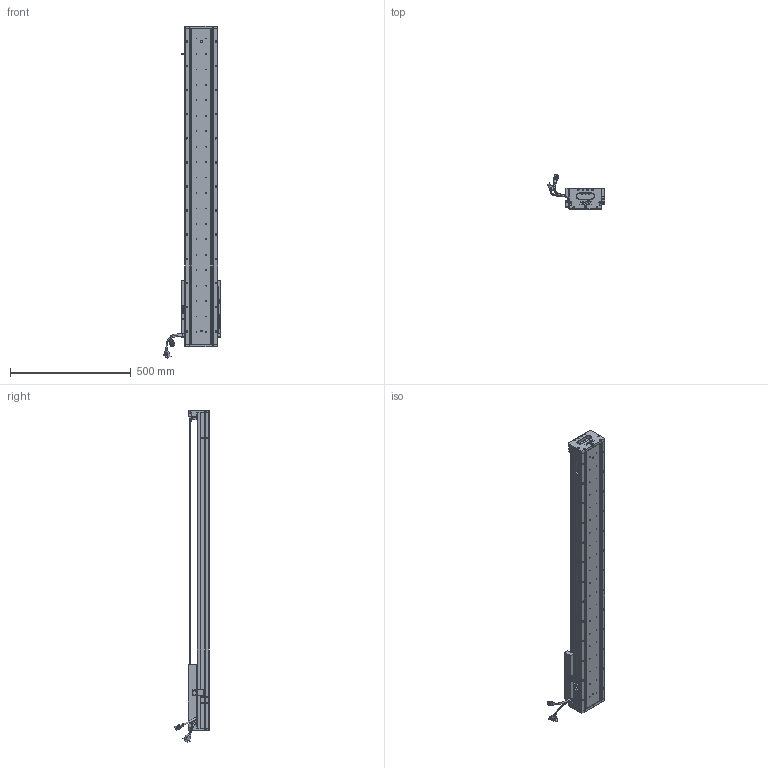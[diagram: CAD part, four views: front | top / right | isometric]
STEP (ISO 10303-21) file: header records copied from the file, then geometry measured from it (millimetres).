
FILE_DESCRIPTION (( 'STEP AP203' ), '1' );
FILE_NAME ('Z3-RY140D-1-L500-B-K.SLDASM_1000.step', '2021-05-17T08:01:06', ( '盈信电脑' ), ( '东莞市道滘镇水果街19号' ), 'SwSTEP 2.0', 'SolidWorks 2016', '' );
FILE_SCHEMA (( 'CONFIG_CONTROL_DESIGN' ));
Length unit declared in the file: millimetre
Products named in the file (36): SEAL; LABEL; 榋妏寠巭燃_暯_M2_2; Z-140詩湍傷裔啣; SCREW-M1.7; Z-RY140詩湍奻揤裔; Z3-RY140圉猾敕臏賑輸(21遴); SCALE-Part-1; Z-RY140詩湍狟揤裔; 覜茼ん672; HARNESS-Part-2; SCALE; LABEL-Part-1; COVER; HARNESS-Part-1; 140雄赽晤鎢ん堤盄; SCREW-M1.6-1; PBU_SHEET; Z3-RY140D-1-L500-B-K.SLDASM_1000; SCREW-M1.7-1; SCALE-Part-2; 140-Z-臏賑輸盄裔(21遴); HOLDER0; COVER-Part-1; SCREW-M1.6-3; HARNESS; 140蚥薯蝶輸; SHIELDPLATE; PSLH080_PSLF2; 080黍杅芛假蚾釱21遴; SEAL-Part-1; Z3-RY140-L500詩湍100mm遵_1000; Z-RY140感应器672光电感应片; SCREW-M1.6; Z3-RY140-L500直线电机模组底座_1000; SCREW-M1.6-2
Assembly tree (41 placements, depth 4):
  Z3-RY140D-1-L500-B-K.SLDASM_1000
    Z3-RY140-L500直线电机模组底座_1000
    Z-RY140感应器672光电感应片
    Z3-RY140圉猾敕臏賑輸(21遴)
    覜茼ん672  x3
    Z3-RY140-L500詩湍100mm遵_1000
    PSLH080_PSLF2
      SCALE
        SCALE-Part-1
        SCALE-Part-2
      HARNESS
        HARNESS-Part-1
        HARNESS-Part-2
      LABEL
        LABEL-Part-1
      COVER
        COVER-Part-1
      SEAL
        SEAL-Part-1
      榋妏寠巭燃_暯_M2_2
      SHIELDPLATE
      SCREW-M1.7
      SCREW-M1.7-1
      PBU_SHEET
      SCREW-M1.6
      SCREW-M1.6-1
      SCREW-M1.6-2
      SCREW-M1.6-3
      HOLDER0
    080黍杅芛假蚾釱21遴
    140-Z-臏賑輸盄裔(21遴)
    Z-140詩湍傷裔啣  x2
    Z-RY140詩湍狟揤裔  x2
    Z-RY140詩湍奻揤裔  x2
    140蚥薯蝶輸  x2
    140雄赽晤鎢ん堤盄
Bounding box: 239.84 x 143.88 x 1375.87 mm (x, y, z)
Volume: 4895671.2 mm3; surface area: 1265848 mm2
Topology: 36 solids, 36 shells, 3184 faces, 8460 edges, 5355 vertices
Faces by surface type: cylinder 1558, plane 1186, cone 318, torus 69, bspline 53
Entity records: 95232 total; most frequent: CARTESIAN_POINT 24803, ORIENTED_EDGE 14008, DIRECTION 13628, EDGE_CURVE 7004, AXIS2_PLACEMENT_3D 5028, VERTEX_POINT 4523, LINE 3572, VECTOR 3572
